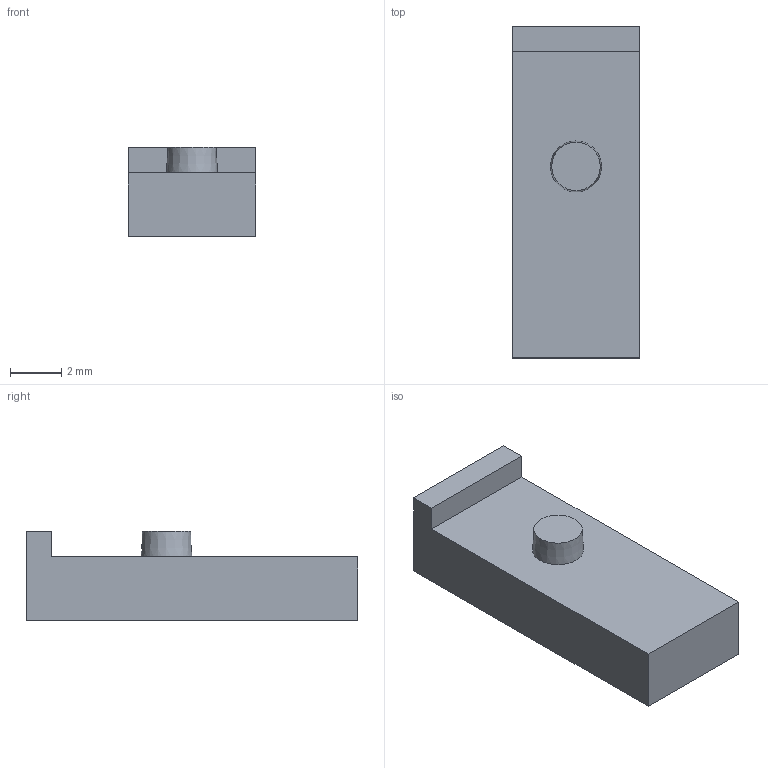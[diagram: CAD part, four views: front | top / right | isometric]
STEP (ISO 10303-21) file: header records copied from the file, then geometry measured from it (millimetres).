
FILE_DESCRIPTION (( 'STEP AP203' ), '1' );
FILE_NAME ('bucha_suporte_servo.STEP', '2026-08-19T20:49:48', ( '' ), ( '' ), 'SwSTEP 2.0', 'SolidWorks 2024', '' );
FILE_SCHEMA (( 'CONFIG_CONTROL_DESIGN' ));
Length unit declared in the file: millimetre
Products named in the file (1): bucha_suporte_servo
Bounding box: 5 x 13 x 3.5 mm (x, y, z)
Volume: 164.2 mm3; surface area: 250.4 mm2
Topology: 1 solids, 1 shells, 12 faces, 24 edges, 16 vertices
Faces by surface type: plane 10, cone 1, cylinder 1
Full cylindrical faces by diameter (mm): 2 x1
Entity records: 379 total; most frequent: DIRECTION 52, CARTESIAN_POINT 51, ORIENTED_EDGE 44, EDGE_CURVE 22, VECTOR 18, LINE 18, AXIS2_PLACEMENT_3D 17, VERTEX_POINT 16
